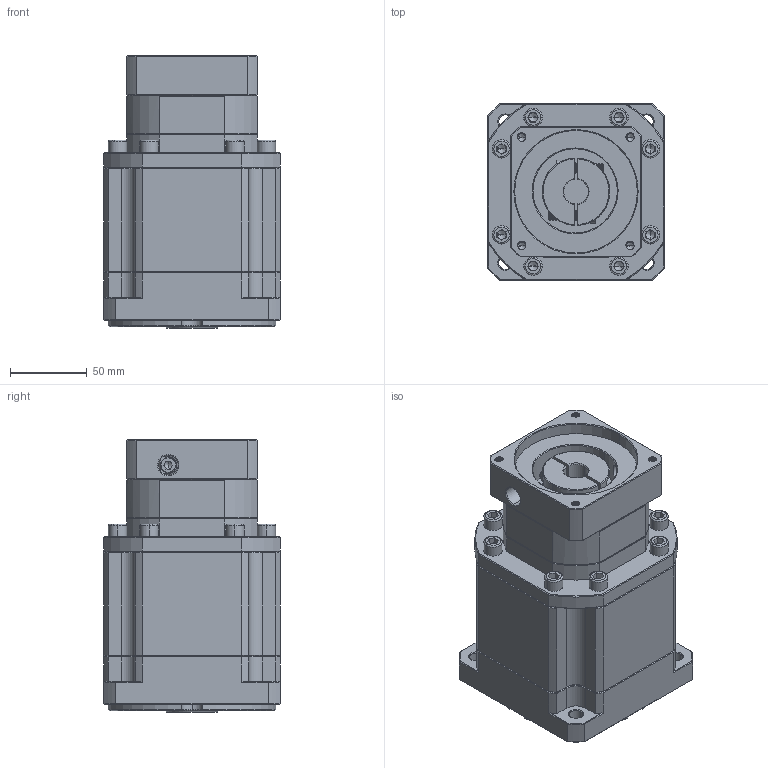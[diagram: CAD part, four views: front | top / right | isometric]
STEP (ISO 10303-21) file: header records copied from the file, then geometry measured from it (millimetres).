
FILE_DESCRIPTION (( 'STEP AP214' ), '1' );
FILE_NAME ('ZB115A-K25-L3-16-80-100-M6.step', '2023-03-03T09:59:12', ( '' ), ( 'Microsoft' ), 'SwSTEP 2.0', 'SolidWorks 2016', '' );
FILE_SCHEMA (( 'AUTOMOTIVE_DESIGN' ));
Length unit declared in the file: millimetre
Products named in the file (1): ZB115A-K25-L3-16-80-100-M6
Bounding box: 115 x 115 x 177.5 mm (x, y, z)
Volume: 1634857.3 mm3; surface area: 143478.4 mm2
Topology: 5 solids, 6 shells, 2080 faces, 5367 edges, 3384 vertices
Faces by surface type: plane 1003, cylinder 393, cone 349, bspline 320, torus 15
Entity records: 107010 total; most frequent: CARTESIAN_POINT 36185, ORIENTED_EDGE 10662, DIRECTION 8791, EDGE_CURVE 5331, VERTEX_POINT 3384, LINE 3365, VECTOR 3365, AXIS2_PLACEMENT_3D 2713
